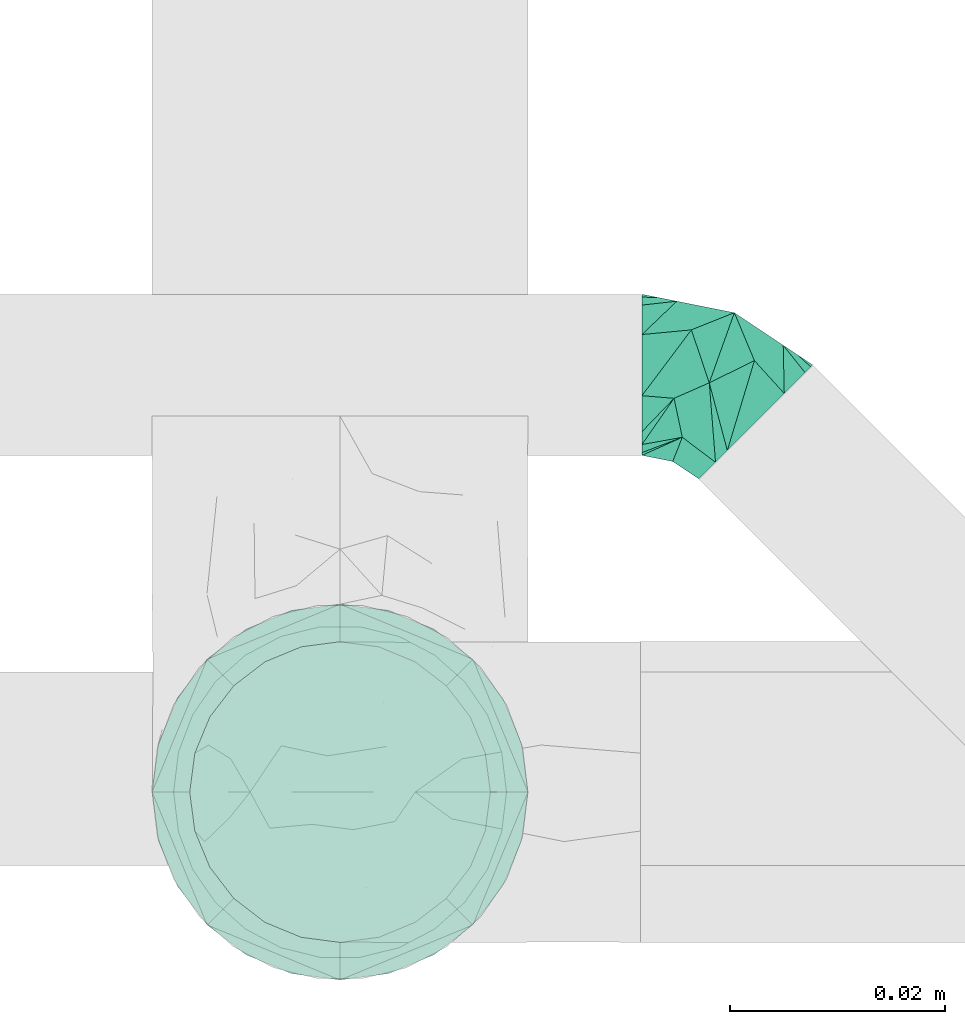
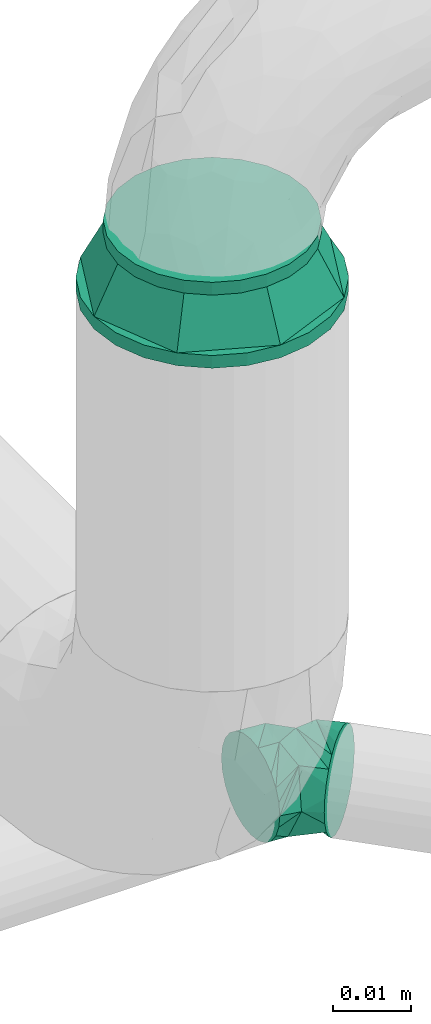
# One storey, part 32 of 35: 2 flow fittings.
"""IFC2X3 building model written with IfcOpenShell, lengths in millimetres."""

from ifc_helpers import new_model, entity, si_unit, converted_unit, derived_unit, direction, frame, origin_with_axes, place, context, subcontext, project, spatial, open_shell, surface_model, source, transform, mapped, type_object, element, save


model = new_model("IFC2X3")

# Units and contexts
model_context = context("Model", 3, precision=0.01, world=frame((0.0, 4.29681676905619e-09, 0.0)), true_north=direction((4.01073788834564e-13, 1.0)))
plan_context = context("Plan", 3, precision=0.01, world=frame((0.0, 4.29681676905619e-09, 0.0)), true_north=direction((4.01073788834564e-13, 1.0)))
body_context = subcontext(model_context, "Body", "Model", "MODEL_VIEW")
ifc_project = project(units=[converted_unit("PLANEANGLEUNIT", "DEGREE", entity("IfcPositiveLengthMeasure", 0.0174532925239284), si_unit("PLANEANGLEUNIT", "RADIAN"), dimensions=[0, 0, 0, 0, 0, 0, 0]), si_unit("AREAUNIT", "SQUARE_METRE"), si_unit("LENGTHUNIT", "METRE", prefix="MILLI"), si_unit("MASSUNIT", "GRAM", prefix="KILO"), si_unit("POWERUNIT", "WATT"), si_unit("PRESSUREUNIT", "PASCAL"), si_unit("FORCEUNIT", "NEWTON", prefix="KILO"), si_unit("ELECTRICVOLTAGEUNIT", "VOLT"), si_unit("ELECTRICCURRENTUNIT", "AMPERE"), si_unit("THERMODYNAMICTEMPERATUREUNIT", "DEGREE_CELSIUS"), si_unit("TIMEUNIT", "SECOND"), si_unit("VOLUMEUNIT", "CUBIC_METRE"), derived_unit("LINEARVELOCITYUNIT", [(si_unit("LENGTHUNIT", "METRE"), 1), (si_unit("TIMEUNIT", "SECOND"), -1)]), derived_unit("VOLUMETRICFLOWRATEUNIT", [(si_unit("VOLUMEUNIT", "CUBIC_METRE"), 1), (si_unit("TIMEUNIT", "SECOND"), -1)]), derived_unit("THERMALTRANSMITTANCEUNIT", [(si_unit("POWERUNIT", "WATT"), 1), (si_unit("THERMODYNAMICTEMPERATUREUNIT", "KELVIN"), -1), (si_unit("AREAUNIT", "SQUARE_METRE"), -1)]), derived_unit("SOUNDPRESSUREUNIT", [(si_unit("PRESSUREUNIT", "PASCAL"), 1)])], contexts=[model_context, plan_context])

# Site, building, storey
site_placement = place(None, frame((0.0, -4.29681676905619e-09, 0.0), z_axis=(0.0, 0.0, 1.0), x_axis=(1.0, 0.0, 0.0)))
site = spatial("IfcSite", under=ifc_project, at=site_placement, Name="ENGM", CompositionType="ELEMENT")
building_placement = place(site_placement, frame((0.0, 4.29681676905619e-09, 0.0), z_axis=(0.0, 0.0, 1.0), x_axis=(1.0, 0.0, 0.0)))
building = spatial("IfcBuilding", under=site, at=building_placement, Name="TH", CompositionType="ELEMENT")
storey_placement = place(building_placement, frame((0.0, 0.0, 210200.0), z_axis=(0.0, 0.0, 1.0), x_axis=(1.0, 0.0, 0.0)))
storey = spatial("IfcBuildingStorey", under=building, at=storey_placement, Name="Nivå F - 0,7 m", CompositionType="ELEMENT", Elevation=210200.0)

# Flow fittings
pipe_fitting_type_1 = type_object("IfcPipeFittingType", Name="magi_pipe_cu_reducer_centric_short_001", PredefinedType="TRANSITION")
shared_shape_1 = source(origin_with_axes(), body_context, "Body", "SurfaceModel", [
    surface_model("IfcShellBasedSurfaceModel", [(-2.0, 9.89949, 9.89949), (-2.0, 0.0, 14.0), (-2.0, 3.62347, 13.52296), (-2.0, 7.0, 12.12436), (-2.0, 12.12436, 7.0), (-2.0, 13.52296, 3.62347), (-2.0, -14.0, 0.0), (-2.0, -12.12436, -7.0), (-2.0, -3.62347, 13.52296), (-2.0, -9.89949, 9.89949), (-2.0, -7.0, 12.12436), (-2.0, -13.52296, 3.62347), (-2.0, -12.12436, 7.0), (-2.0, 13.52296, -3.62347), (-2.0, 3.62347, -13.52296), (-2.0, 12.12436, -7.0), (-2.0, 9.89949, -9.89949), (-2.0, 7.0, -12.12436), (-2.0, 0.0, -14.0), (-2.0, -7.0, -12.12436), (-2.0, -9.89949, -9.89949), (-2.0, -13.52296, -3.62347), (-2.0, -3.62347, -13.52296), (-2.0, 14.0, 0.0), (0.0, 3.62347, -13.52296), (0.0, 7.0, -12.12436), (0.0, 9.89949, -9.89949), (0.0, 12.12436, -7.0), (0.0, 13.52296, -3.62347), (0.0, -7.0, -12.12436), (0.0, -12.12436, -7.0), (0.0, 14.0, 0.0), (0.0, 0.0, -14.0), (0.0, -3.62347, -13.52296), (0.0, -9.89949, -9.89949), (0.0, -13.52296, -3.62347), (0.0, 13.52296, 3.62347), (0.0, 12.12436, 7.0), (0.0, 9.89949, 9.89949), (0.0, 7.0, 12.12436), (0.0, 3.62347, 13.52296), (0.0, 0.0, 14.0), (0.0, -3.62347, 13.52296), (0.0, -13.52296, 3.62347), (0.0, -9.89949, 9.89949), (0.0, -12.12436, 7.0), (0.0, -14.0, 0.0), (0.0, -7.0, 12.12436), (9.0, 4.52933, -16.9037), (9.0, 8.75, -15.15544), (9.0, 12.37437, -12.37437), (9.0, 16.9037, -4.52933), (9.0, -8.75, -15.15544), (9.0, 15.15544, -8.75), (9.0, -16.9037, 4.52933), (9.0, -15.15544, -8.75), (9.0, 0.0, -17.5), (9.0, -4.52933, -16.9037), (9.0, -12.37437, -12.37437), (9.0, -17.5, 0.0), (9.0, -16.9037, -4.52933), (9.0, 0.0, 17.5), (9.0, 17.5, 0.0), (9.0, 16.9037, 4.52933), (9.0, 15.15544, 8.75), (9.0, 12.37437, 12.37437), (9.0, 4.52933, 16.9037), (9.0, 8.75, 15.15544), (9.0, -12.37437, 12.37437), (9.0, -15.15544, 8.75), (9.0, -8.75, 15.15544), (9.0, -4.52933, 16.9037), (7.0, 0.0, 17.5), (7.0, 4.52933, 16.9037), (7.0, 8.75, 15.15544), (7.0, -15.15544, -8.75), (7.0, 12.37437, 12.37437), (7.0, 15.15544, 8.75), (7.0, 16.9037, 4.52933), (7.0, -16.9037, 4.52933), (7.0, -8.75, 15.15544), (7.0, -12.37437, 12.37437), (7.0, -4.52933, 16.9037), (7.0, -15.15544, 8.75), (7.0, -17.5, 0.0), (7.0, 16.9037, -4.52933), (7.0, 12.37437, -12.37437), (7.0, 15.15544, -8.75), (7.0, 8.75, -15.15544), (7.0, 4.52933, -16.9037), (7.0, 0.0, -17.5), (7.0, -8.75, -15.15544), (7.0, -12.37437, -12.37437), (7.0, -16.9037, -4.52933), (7.0, -4.52933, -16.9037), (7.0, 17.5, 0.0), (0.0, -10.92462, -7.42462), (7.0, -13.67669, -9.23028), (7.0, -14.97902, -6.08619), (0.0, -11.94975, -4.94975), (0.0, -12.97487, -2.47487), (7.0, -16.23951, -3.04309), (0.0, -2.47487, -12.97487), (7.0, -6.18718, -14.93718), (0.0, -7.42462, -10.92462), (0.0, -4.94975, -11.94975), (7.0, -3.09359, -16.21859), (7.0, -9.28078, -13.65578), (7.0, 3.09359, -16.21859), (0.0, 2.47487, -12.97487), (0.0, 12.99161, -2.43447), (7.0, 13.65578, -9.28078), (0.0, 10.92462, -7.42462), (7.0, 14.93718, -6.18718), (0.0, 11.94975, -4.94975), (0.0, 7.42462, -10.92462), (7.0, 9.28078, -13.65578), (7.0, 16.21859, -3.09359), (0.0, 4.94975, -11.94975), (7.0, 6.18718, -14.93718), (0.0, 10.92462, 7.42462), (7.0, 13.67669, 9.23028), (7.0, 14.97902, 6.08619), (0.0, 11.94975, 4.94975), (0.0, 12.97487, 2.47487), (7.0, 16.23951, 3.04309), (0.0, 2.47487, 12.97487), (7.0, 6.18718, 14.93718), (0.0, 7.42462, 10.92462), (0.0, 4.94975, 11.94975), (7.0, 3.09359, 16.21859), (7.0, 9.28078, 13.65578), (7.0, -3.09359, 16.21859), (0.0, -2.47487, 12.97487), (0.0, -12.99161, 2.43447), (7.0, -13.65578, 9.28078), (0.0, -10.92462, 7.42462), (7.0, -14.93718, 6.18718), (0.0, -11.94975, 4.94975), (0.0, -7.42462, 10.92462), (7.0, -9.28078, 13.65578), (7.0, -16.21859, 3.09359), (0.0, -4.94975, 11.94975), (7.0, -6.18718, 14.93718)], [open_shell([[[0, 1, 2]], [[0, 2, 3]], [[0, 4, 5]], [[0, 5, 1]], [[6, 1, 7]], [[8, 9, 10]], [[9, 8, 11]], [[9, 11, 12]], [[11, 8, 6]], [[8, 1, 6]], [[1, 5, 7]], [[7, 5, 13]], [[14, 13, 15]], [[16, 17, 14]], [[16, 14, 15]], [[18, 13, 14]], [[7, 19, 20]], [[21, 6, 7]], [[19, 18, 22]], [[19, 7, 13]], [[18, 19, 13]], [[5, 23, 13]], [[24, 25, 26]], [[24, 26, 27]], [[24, 28, 29]], [[28, 24, 27]], [[30, 28, 31]], [[32, 29, 33]], [[32, 24, 29]], [[29, 30, 34]], [[28, 30, 29]], [[31, 35, 30]], [[31, 36, 35]], [[36, 37, 38]], [[36, 38, 39]], [[40, 41, 36]], [[40, 36, 39]], [[36, 41, 42]], [[43, 44, 45]], [[42, 43, 46]], [[44, 42, 47]], [[42, 44, 43]], [[46, 36, 42]], [[36, 46, 35]], [[21, 35, 6]], [[7, 30, 21]], [[29, 20, 19]], [[7, 20, 34]], [[33, 19, 22]], [[21, 30, 35]], [[35, 46, 6]], [[33, 29, 19]], [[34, 20, 29]], [[34, 30, 7]], [[32, 33, 22]], [[22, 18, 32]], [[14, 24, 18]], [[17, 25, 14]], [[27, 16, 15]], [[17, 16, 26]], [[28, 15, 13]], [[17, 26, 25]], [[25, 24, 14]], [[31, 28, 13]], [[27, 15, 28]], [[27, 26, 16]], [[23, 31, 13]], [[18, 24, 32]], [[5, 36, 23]], [[4, 37, 5]], [[39, 0, 3]], [[4, 0, 38]], [[40, 3, 2]], [[5, 37, 36]], [[36, 31, 23]], [[40, 39, 3]], [[38, 0, 39]], [[38, 37, 4]], [[41, 40, 2]], [[2, 1, 41]], [[8, 42, 1]], [[10, 47, 8]], [[45, 9, 12]], [[10, 9, 44]], [[43, 12, 11]], [[10, 44, 47]], [[47, 42, 8]], [[46, 43, 11]], [[45, 12, 43]], [[45, 44, 9]], [[6, 46, 11]], [[1, 42, 41]], [[34, 46, 44]], [[31, 26, 34]], [[32, 34, 26]], [[48, 49, 50]], [[48, 50, 51]], [[48, 51, 52]], [[51, 50, 53]], [[54, 55, 51]], [[56, 52, 57]], [[56, 48, 52]], [[52, 55, 58]], [[51, 55, 52]], [[55, 59, 60]], [[61, 51, 62]], [[63, 64, 65]], [[63, 65, 61]], [[66, 61, 65]], [[66, 65, 67]], [[61, 54, 51]], [[54, 68, 69]], [[59, 55, 54]], [[54, 70, 68]], [[70, 54, 71]], [[61, 71, 54]], [[62, 63, 61]], [[72, 73, 74]], [[75, 72, 74]], [[76, 77, 78]], [[76, 78, 74]], [[79, 72, 75]], [[80, 79, 81]], [[79, 80, 82]], [[81, 79, 83]], [[82, 72, 79]], [[79, 75, 84]], [[78, 75, 74]], [[78, 85, 75]], [[86, 85, 87]], [[86, 88, 89]], [[86, 89, 85]], [[90, 85, 89]], [[75, 91, 92]], [[93, 84, 75]], [[91, 90, 94]], [[91, 75, 85]], [[90, 91, 85]], [[85, 78, 95]], [[93, 60, 84]], [[75, 55, 93]], [[52, 92, 91]], [[75, 92, 58]], [[57, 91, 94]], [[93, 55, 60]], [[60, 59, 84]], [[57, 52, 91]], [[58, 92, 52]], [[58, 55, 75]], [[56, 57, 94]], [[94, 90, 56]], [[89, 48, 90]], [[88, 49, 89]], [[53, 86, 87]], [[88, 86, 50]], [[51, 87, 85]], [[88, 50, 49]], [[49, 48, 89]], [[62, 51, 85]], [[53, 87, 51]], [[53, 50, 86]], [[95, 62, 85]], [[90, 48, 56]], [[78, 63, 95]], [[77, 64, 78]], [[67, 76, 74]], [[77, 76, 65]], [[66, 74, 73]], [[78, 64, 63]], [[63, 62, 95]], [[66, 67, 74]], [[65, 76, 67]], [[65, 64, 77]], [[61, 66, 73]], [[73, 72, 61]], [[82, 71, 72]], [[80, 70, 82]], [[69, 81, 83]], [[80, 81, 68]], [[54, 83, 79]], [[80, 68, 70]], [[70, 71, 82]], [[59, 54, 79]], [[69, 83, 54]], [[69, 68, 81]], [[84, 59, 79]], [[72, 71, 61]], [[76, 72, 86]], [[86, 95, 76]], [[84, 72, 81]], [[84, 92, 90]], [[90, 86, 84]], [[84, 86, 72]], [[44, 41, 31]], [[31, 41, 38]], [[31, 34, 44]], [[96, 34, 92]], [[97, 98, 99]], [[100, 98, 101]], [[102, 32, 90]], [[103, 104, 105]], [[102, 90, 106]], [[107, 34, 104]], [[108, 32, 109]], [[110, 31, 95]], [[46, 101, 84]], [[108, 90, 32]], [[111, 26, 112]], [[113, 112, 114]], [[115, 86, 116]], [[110, 95, 117]], [[96, 92, 97]], [[117, 113, 114]], [[106, 103, 105]], [[118, 116, 119]], [[109, 118, 119]], [[98, 100, 99]], [[46, 100, 101]], [[97, 99, 96]], [[104, 103, 107]], [[107, 92, 34]], [[106, 105, 102]], [[112, 113, 111]], [[111, 86, 26]], [[117, 114, 110]], [[116, 118, 115]], [[115, 26, 86]], [[109, 119, 108]], [[120, 38, 76]], [[121, 122, 123]], [[124, 122, 125]], [[126, 41, 72]], [[127, 128, 129]], [[126, 72, 130]], [[131, 38, 128]], [[132, 41, 133]], [[134, 46, 84]], [[31, 125, 95]], [[132, 72, 41]], [[135, 44, 136]], [[137, 136, 138]], [[139, 81, 140]], [[134, 84, 141]], [[120, 76, 121]], [[141, 137, 138]], [[130, 127, 129]], [[142, 140, 143]], [[133, 142, 143]], [[122, 124, 123]], [[31, 124, 125]], [[121, 123, 120]], [[128, 127, 131]], [[131, 76, 38]], [[130, 129, 126]], [[136, 137, 135]], [[135, 81, 44]], [[141, 138, 134]], [[140, 142, 139]], [[139, 44, 81]], [[133, 143, 132]]])]),
])
flow_fitting_1_placement = place(storey_placement, frame((895573.45, 478547.05558, 3150.15807999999), z_axis=(0.0, -1.0, 0.0), x_axis=(0.0, 0.0, -1.0)))
element("IfcFlowFitting", 1, at=flow_fitting_1_placement, inside=storey, type_object=pipe_fitting_type_1, Name="magi_pipe_cu_reducer_centric_short_001", context=body_context, shape_type="MappedRepresentation", body=[
    mapped(shared_shape_1, transform((0.0, 0.0, 0.0), scale=1.0)),
])
pipe_fitting_type_2 = type_object("IfcPipeFittingType", Name="magi_pipe_cu_elbow_short_001", PredefinedType="BEND")
shared_shape_2 = source(origin_with_axes(), body_context, "Body", "SurfaceModel", [
    surface_model("IfcShellBasedSurfaceModel", [(-6.2132, 0.0, -7.5), (-6.2132, -6.49519, -3.75), (-6.2132, 1.94114, -7.24444), (-6.2132, 3.75, -6.49519), (-6.2132, 5.3033, -5.3033), (-6.2132, 7.24444, -1.94114), (-6.2132, 6.49519, -3.75), (-6.2132, -5.3033, -5.3033), (-6.2132, -3.75, -6.49519), (-6.2132, -1.94114, -7.24444), (-6.2132, -7.24444, -1.94114), (-6.2132, -7.5, 0.0), (-6.2132, -6.49519, 3.75), (-6.2132, 7.24444, 1.94114), (-6.2132, 6.49519, 3.75), (-6.2132, 3.75, 6.49519), (-6.2132, 1.94114, 7.24444), (-6.2132, 5.3033, 5.3033), (-6.2132, -5.3033, 5.3033), (-6.2132, -7.24444, 1.94114), (-6.2132, -1.94114, 7.24444), (-6.2132, 0.0, 7.5), (-6.2132, -3.75, 6.49519), (-6.2132, 7.5, 0.0), (3.0208, 5.76599, -7.24444), (8.98619, -0.19939, -3.75), (4.3934, 4.3934, -7.5), (0.6434, 8.1434, -5.3033), (1.74175, 7.04505, -6.49519), (-0.19939, 8.98619, -3.75), (-0.7292, 9.51599, -1.94114), (7.04505, 1.74175, -6.49519), (8.1434, 0.6434, -5.3033), (5.76599, 3.0208, -7.24444), (9.6967, -0.9099, 0.0), (9.51599, -0.7292, -1.94114), (8.98619, -0.19939, 3.75), (7.04505, 1.74175, 6.49519), (-0.7292, 9.51599, 1.94114), (1.74175, 7.04505, 6.49519), (-0.19939, 8.98619, 3.75), (3.0208, 5.76599, 7.24444), (0.6434, 8.1434, 5.3033), (8.1434, 0.6434, 5.3033), (9.51599, -0.7292, 1.94114), (4.3934, 4.3934, 7.5), (5.76599, 3.0208, 7.24444), (-0.9099, 9.6967, 0.0), (-2.96489, -6.85387, 0.0), (-2.08039, -3.94941, 6.07744), (0.73116, 3.82542, 7.26992), (-0.56796, 0.48853, 7.47824), (-2.37847, 5.84694, 5.52116), (-4.58904, -7.17693, 0.0), (2.39717, -5.78729, 0.0), (-0.28386, -6.32058, 0.0), (4.09466, -1.82489, 5.81925), (4.67004, -4.26861, 0.0), (-3.34308, 8.0709, 0.0), (6.94291, -2.74993, 0.0), (8.3198, -1.82991, 0.0), (-0.61397, 4.4754, -6.839), (4.0144, -2.04435, -5.6974), (-0.92784, -1.14015, -7.23296)], [open_shell([[[0, 1, 2]], [[3, 2, 4]], [[5, 6, 4]], [[4, 2, 1]], [[5, 4, 1]], [[7, 1, 8]], [[9, 8, 1]], [[10, 11, 1]], [[0, 9, 1]], [[11, 12, 1]], [[12, 5, 1]], [[13, 5, 12]], [[14, 13, 15]], [[13, 16, 15]], [[17, 14, 15]], [[16, 13, 12]], [[12, 18, 16]], [[12, 11, 19]], [[20, 21, 22]], [[18, 22, 21]], [[16, 18, 21]], [[13, 23, 5]], [[24, 25, 26]], [[27, 24, 28]], [[27, 29, 30]], [[24, 27, 25]], [[30, 25, 27]], [[31, 25, 32]], [[25, 31, 33]], [[25, 34, 35]], [[25, 33, 26]], [[25, 36, 34]], [[25, 30, 37]], [[30, 38, 37]], [[39, 38, 40]], [[39, 41, 38]], [[39, 40, 42]], [[37, 38, 41]], [[36, 37, 43]], [[44, 34, 36]], [[37, 45, 46]], [[36, 25, 37]], [[45, 37, 41]], [[30, 47, 38]], [[18, 48, 22]], [[12, 48, 18]], [[22, 48, 49]], [[40, 50, 42]], [[15, 49, 51]], [[49, 21, 20]], [[52, 50, 40]], [[19, 53, 12]], [[54, 49, 55]], [[54, 56, 51]], [[16, 49, 15]], [[14, 52, 13]], [[19, 11, 53]], [[56, 54, 57]], [[52, 14, 17]], [[58, 23, 13]], [[51, 52, 17]], [[53, 48, 12]], [[21, 49, 16]], [[22, 49, 20]], [[51, 49, 54]], [[45, 56, 46]], [[37, 46, 56]], [[13, 52, 58]], [[41, 56, 45]], [[59, 36, 43]], [[59, 43, 37]], [[44, 60, 34]], [[57, 59, 56]], [[49, 48, 55]], [[58, 52, 47]], [[38, 47, 52]], [[37, 56, 59]], [[52, 40, 38]], [[41, 39, 50]], [[59, 60, 36]], [[42, 50, 39]], [[36, 60, 44]], [[41, 50, 56]], [[50, 52, 51]], [[56, 50, 51]], [[51, 17, 15]], [[61, 62, 63]], [[30, 61, 58]], [[3, 63, 2]], [[2, 63, 0]], [[61, 5, 58]], [[1, 53, 10]], [[48, 9, 55]], [[48, 53, 1]], [[61, 6, 5]], [[28, 24, 61]], [[48, 8, 9]], [[4, 63, 3]], [[53, 11, 10]], [[1, 7, 48]], [[48, 7, 8]], [[63, 54, 55]], [[63, 9, 0]], [[5, 23, 58]], [[58, 47, 30]], [[54, 63, 62]], [[30, 29, 61]], [[27, 28, 61]], [[35, 34, 60]], [[24, 26, 62]], [[60, 59, 25]], [[63, 4, 6]], [[24, 62, 61]], [[63, 55, 9]], [[33, 62, 26]], [[59, 62, 31]], [[6, 61, 63]], [[57, 54, 62]], [[59, 31, 32]], [[35, 60, 25]], [[62, 59, 57]], [[59, 32, 25]], [[31, 62, 33]], [[61, 29, 27]]])]),
])
flow_fitting_2_placement = place(storey_placement, frame((895607.775, 478585.9125, 3030.0), z_axis=(0.0, 0.0, 1.0), x_axis=(-0.707106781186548, 0.707106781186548, 0.0)))
element("IfcFlowFitting", 2, at=flow_fitting_2_placement, inside=storey, type_object=pipe_fitting_type_2, Name="magi_pipe_cu_elbow_short_001", context=body_context, shape_type="MappedRepresentation", body=[
    mapped(shared_shape_2, transform((0.0, 0.0, 0.0), scale=1.0)),
])

save(model, "model.ifc")
